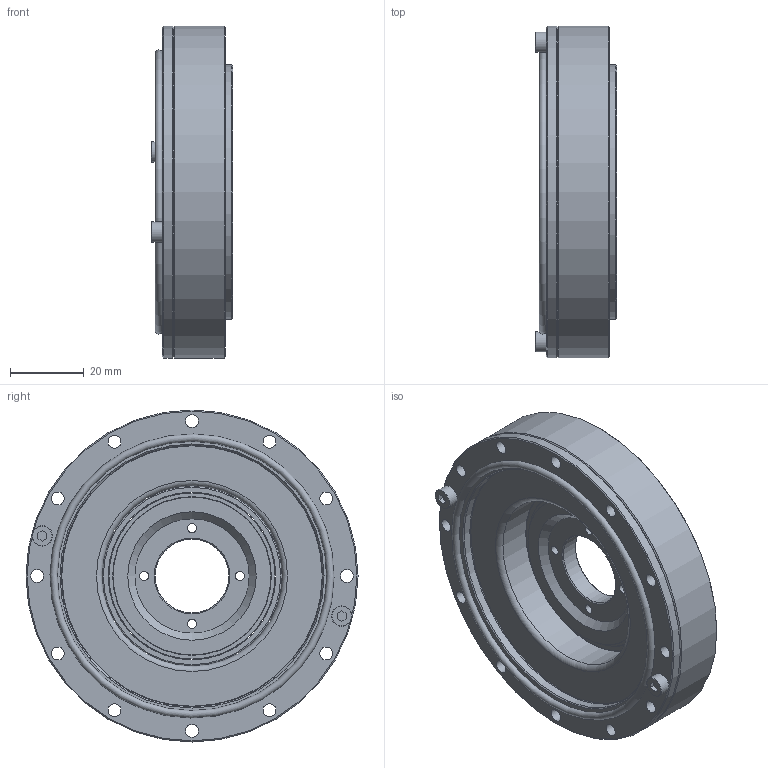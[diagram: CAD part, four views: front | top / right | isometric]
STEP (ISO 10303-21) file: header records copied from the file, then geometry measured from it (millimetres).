
FILE_DESCRIPTION (( 'STEP AP203' ), '1' );
FILE_NAME ('FHD-20-XXX-SH.STEP', '2025-03-19T08:36:42', ( '微软用户' ), ( '微软中国' ), 'SwSTEP 2.0', 'SolidWorks 2016', '' );
FILE_SCHEMA (( 'CONFIG_CONTROL_DESIGN' ));
Length unit declared in the file: millimetre
Products named in the file (1): FHD-20-XXX-SH
Bounding box: 22 x 90 x 90 mm (x, y, z)
Volume: 71277.8 mm3; surface area: 61022.4 mm2
Topology: 37 solids, 37 shells, 322 faces, 795 edges, 516 vertices
Faces by surface type: cylinder 137, plane 99, cone 45, sphere 23, torus 18
Full cylindrical faces by diameter (mm): 2.5 x22, 3 x2, 3.5 x26, 5.5 x2, 20 x1, 34.555 x1, 35.555 x2, 38.555 x1, 39.318 x2, 40 x1, 43 x1, 45 x1, 45.474 x2, 48.668 x1, 48.868 x1, 49.897 x1, 50.266 x1, 51.2 x1, 53 x1, 54 x1, 56.8 x1, 64.186 x1, 68.999 x1, 69 x3, 71 x3, 72 x1, 72.6 x1, 75.4 x1, 75.814 x1, 78 x3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
Entity records: 8107 total; most frequent: DIRECTION 1572, CARTESIAN_POINT 1273, ORIENTED_EDGE 1054, AXIS2_PLACEMENT_3D 722, EDGE_LOOP 542, EDGE_CURVE 527, VERTEX_POINT 423, FACE_OUTER_BOUND 400
